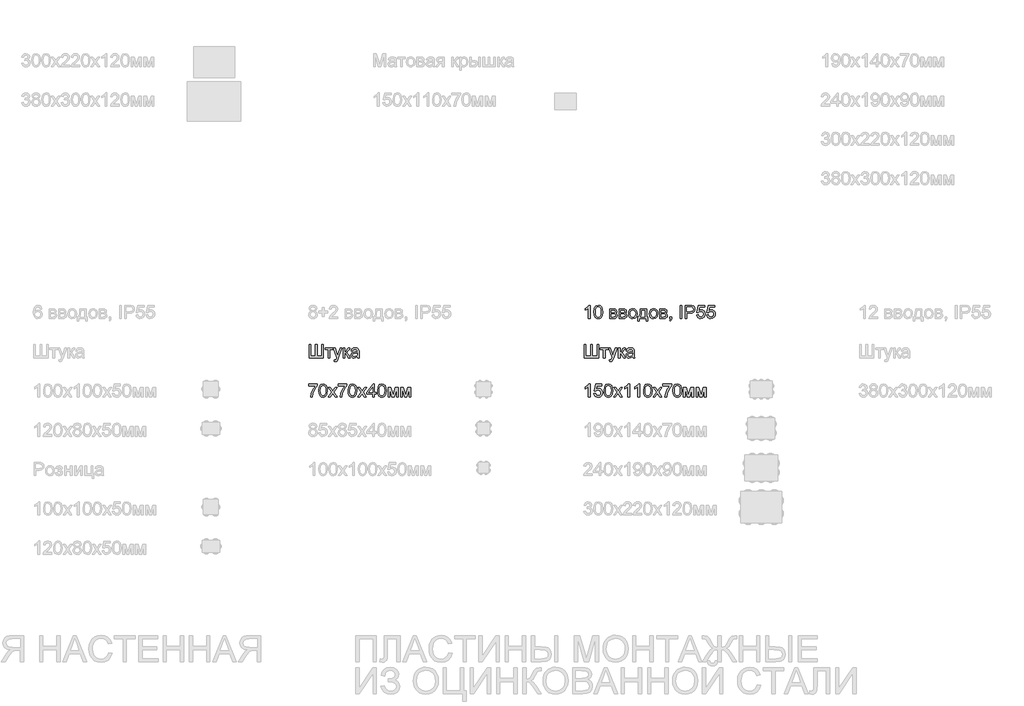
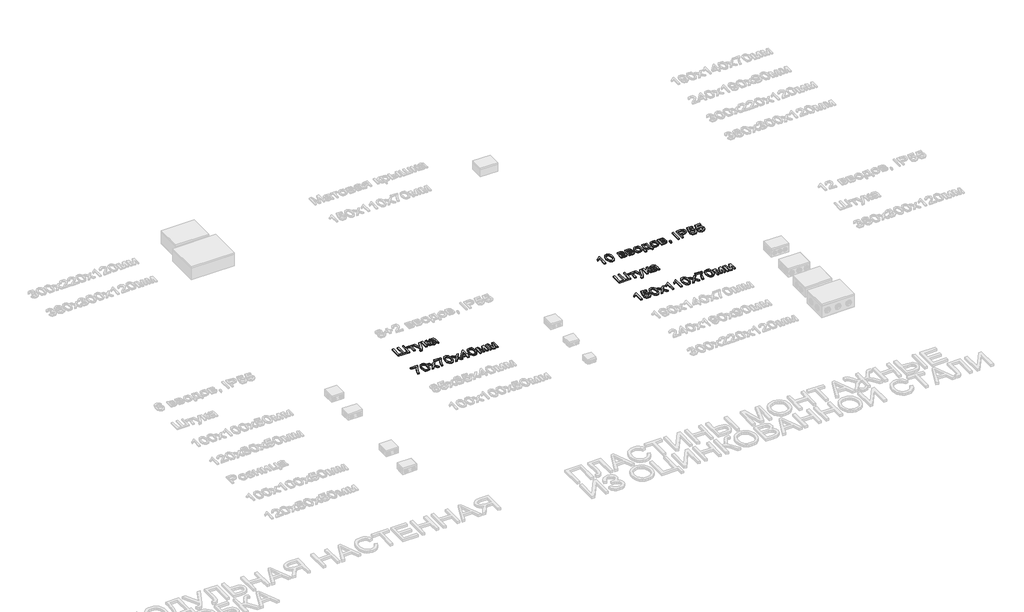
# One storey, part 26 of 98: 5 proxies.
"""IFC4 building model written with IfcOpenShell, lengths in millimetres."""

from ifc_helpers import new_model, si_unit, origin, origin_with_axes, place, context, project, spatial, polyline, outline, extrude, element, save

model = new_model("IFC4")

# Units and contexts
model_context = context("Model", 3, world=origin())
ifc_project = project(units=[si_unit("LENGTHUNIT", "METRE", prefix="MILLI")], contexts=[model_context])

# Site, building, storey
site = spatial("IfcSite", under=ifc_project)
building = spatial("IfcBuilding", under=site)
storey = spatial("IfcBuildingStorey", under=building, Name="Этаж 01", Elevation=0.0)

# Proxies
placement = place(None, origin())
element("IfcBuildingElementProxy", 1, Name="100", ObjectType="100", at=placement, inside=storey, context=model_context, shape_type="SweptSolid", body=[
    extrude(outline(polyline([(8053.5894784, -45359.0558563), (8066.1465172, -45359.0558563), (8066.1465172, -45446.9551277), (8102.2480036, -45446.9551277), (8102.2480036, -45359.0558563), (8114.8050424, -45359.0558563), (8114.8050424, -45446.9551277), (8150.9065289, -45446.9551277), (8150.9065289, -45359.0558563), (8163.4635676, -45359.0558563), (8163.4635676, -45459.5121665), (8053.5894784, -45459.5121665), (8053.5894784, -45359.0558563)])), origin_with_axes(), (0.0, 0.0, 1.0), 10.0),
    extrude(outline(polyline([(8176.0206064, -45385.7395637), (8235.6665405, -45385.7395637), (8235.6665405, -45398.2966025), (8212.1220929, -45398.2966025), (8212.1220929, -45459.5121665), (8199.5650541, -45459.5121665), (8199.5650541, -45398.2966025), (8176.0206064, -45398.2966025), (8176.0206064, -45385.7395637)])), origin_with_axes(), (0.0, 0.0, 1.0), 10.0),
    extrude(outline(polyline([(8246.6539495, -45487.7655037), (8245.0843196, -45475.6744488), (8251.4609409, -45476.7780948), (8257.4206292, -45475.3924059), (8261.0749237, -45471.529645), (8264.508489, -45462.2835442), (8265.4895076, -45459.2423863), (8238.8058002, -45385.7395637), (8252.0495521, -45385.7395637), (8266.2007461, -45426.6970925), (8271.1303649, -45443.080104), (8276.0599836, -45428.6100789), (8290.6035852, -45385.7395637), (8303.7492351, -45385.7395637), (8278.0710719, -45461.278), (8271.400145, -45477.6610116), (8264.1160815, -45486.5147049), (8254.3304204, -45489.3351335), (8246.6539495, -45487.7655037)])), origin_with_axes(), (0.0, 0.0, 1.0), 10.0),
    extrude(outline(polyline([(8314.1480329, -45385.7395637), (8326.7050716, -45385.7395637), (8326.7050716, -45417.1321606), (8335.1173066, -45414.8758177), (8342.0089626, -45401.7301677), (8347.735659, -45390.3871396), (8352.7879051, -45386.6960569), (8361.9726922, -45385.7395637), (8364.3761879, -45385.7395637), (8364.3761879, -45398.3701789), (8360.9916736, -45398.2966025), (8354.860307, -45399.6209776), (8350.5438249, -45407.8860598), (8345.4793161, -45416.8255923), (8338.3791936, -45421.203388), (8346.3009192, -45426.0900872), (8354.0754921, -45436.3846517), (8367.5154476, -45459.5121665), (8353.2416262, -45459.5121665), (8340.0714508, -45436.875161), (8333.4495749, -45427.2979664), (8326.7050716, -45424.9803098), (8326.7050716, -45459.5121665), (8314.1480329, -45459.5121665), (8314.1480329, -45385.7395637)])), origin_with_axes(), (0.0, 0.0, 1.0), 10.0),
    extrude(outline(polyline([(8422.4524922, -45450.0943874), (8410.2755982, -45458.6047242), (8396.8233799, -45461.0817963), (8386.329546, -45459.5918742), (8378.5886957, -45455.122108), (8373.8154268, -45448.3346852), (8372.2243372, -45439.8917934), (8374.6278329, -45429.9589795), (8380.9431404, -45422.7484924), (8389.7355201, -45418.6282141), (8400.6003017, -45416.7397532), (8422.3789158, -45412.4232711), (8422.4524922, -45409.6273679), (8418.9944015, -45400.3567416), (8405.1129875, -45396.7269726), (8392.408796, -45399.1427311), (8386.3510058, -45407.7143815), (8373.793967, -45406.1447517), (8379.2263578, -45393.8820185), (8390.1647158, -45386.6960569), (8406.7316683, -45384.1699338), (8421.9497202, -45386.4017513), (8430.5458961, -45392.0058203), (8434.3963943, -45400.5284199), (8435.009531, -45411.5158288), (8435.009531, -45427.1385509), (8435.6471931, -45448.9539532), (8438.1487907, -45459.5121665), (8425.5917519, -45459.5121665), (8422.4524922, -45450.0943874)]), holes=[polyline([(8422.4524922, -45424.9803098), (8402.194457, -45428.8308081), (8391.3909891, -45430.8664218), (8386.4981586, -45434.1773597), (8384.7813759, -45439.0088766), (8388.5215095, -45445.8024308), (8399.4966557, -45448.5247575), (8412.2008473, -45445.5203879), (8420.3923531, -45438.2485871), (8422.3789158, -45428.5365025), (8422.4524922, -45424.9803098)])]), origin_with_axes(), (0.0, 0.0, 1.0), 10.0),
])
element("IfcBuildingElementProxy", 2, Name="100", ObjectType="100", at=placement, inside=storey, context=model_context, shape_type="SweptSolid", body=[
    extrude(outline(polyline([(8050.4502187, -45673.1825249), (8050.4502187, -45660.6254862), (8116.3746722, -45660.6254862), (8116.3746722, -45670.7790292), (8097.6740042, -45697.7938304), (8083.3633945, -45732.2153224), (8078.7035559, -45759.5121665), (8066.1465172, -45759.5121665), (8071.1374496, -45731.1852528), (8084.8349225, -45699.1672565), (8103.8176335, -45673.1825249), (8050.4502187, -45673.1825249)])), origin_with_axes(), (0.0, 0.0, 1.0), 10.0),
    extrude(outline(polyline([(8127.3620812, -45710.0933518), (8131.0531639, -45681.1900897), (8142.0160473, -45664.5250353), (8160.3243079, -45659.0558563), (8174.9905368, -45662.2932179), (8185.1195544, -45671.6251578), (8191.0056663, -45686.4875904), (8193.2865347, -45710.0933518), (8189.6322402, -45738.8739865), (8178.706145, -45755.5758291), (8170.4747853, -45759.7053045), (8160.3243079, -45761.0817963), (8147.2767598, -45758.6905633), (8137.3684714, -45751.5168644), (8129.8636787, -45734.5268476), (8127.3620812, -45710.0933518)]), holes=[polyline([(8139.9191199, -45710.0688263), (8141.3906479, -45729.8210238), (8145.8052319, -45741.2529568), (8152.3780568, -45746.7068073), (8160.3243079, -45748.5247575), (8168.270559, -45746.700676), (8174.843384, -45741.2284313), (8179.257968, -45729.7903669), (8180.7294959, -45710.0688263), (8179.3070189, -45690.7611529), (8175.0395877, -45679.2403151), (8168.4790255, -45673.5197501), (8160.1771551, -45671.6128951), (8152.3167432, -45673.2928895), (8146.0014356, -45678.3328729), (8141.4396988, -45690.5710806), (8139.9191199, -45710.0688263)])]), origin_with_axes(), (0.0, 0.0, 1.0), 10.0),
    extrude(outline(polyline([(8199.5650541, -45759.5121665), (8226.3959143, -45722.4296613), (8201.1346839, -45685.7395637), (8216.2423712, -45685.7395637), (8228.431528, -45703.3978995), (8234.1214362, -45711.736558), (8239.0510549, -45704.9184784), (8252.9324689, -45685.7395637), (8268.0401561, -45685.7395637), (8241.5036015, -45722.4296613), (8267.0591375, -45759.5121665), (8251.9514502, -45759.5121665), (8236.5739828, -45737.2185176), (8233.7535542, -45733.1472901), (8214.6727414, -45759.5121665), (8199.5650541, -45759.5121665)])), origin_with_axes(), (0.0, 0.0, 1.0), 10.0),
    extrude(outline(polyline([(8274.9072867, -45673.1825249), (8274.9072867, -45660.6254862), (8340.8317402, -45660.6254862), (8340.8317402, -45670.7790292), (8322.1310721, -45697.7938304), (8307.8204625, -45732.2153224), (8303.1606239, -45759.5121665), (8290.6035852, -45759.5121665), (8295.5945176, -45731.1852528), (8309.2919905, -45699.1672565), (8328.2747015, -45673.1825249), (8274.9072867, -45673.1825249)])), origin_with_axes(), (0.0, 0.0, 1.0), 10.0),
    extrude(outline(polyline([(8351.8191492, -45710.0933518), (8355.5102318, -45681.1900897), (8366.4731153, -45664.5250353), (8384.7813759, -45659.0558563), (8399.4476048, -45662.2932179), (8409.5766224, -45671.6251578), (8415.4627343, -45686.4875904), (8417.7436027, -45710.0933518), (8414.0893082, -45738.8739865), (8403.163213, -45755.5758291), (8394.9318533, -45759.7053045), (8384.7813759, -45761.0817963), (8371.7338278, -45758.6905633), (8361.8255394, -45751.5168644), (8354.3207467, -45734.5268476), (8351.8191492, -45710.0933518)]), holes=[polyline([(8364.3761879, -45710.0688263), (8365.8477159, -45729.8210238), (8370.2622998, -45741.2529568), (8376.8351248, -45746.7068073), (8384.7813759, -45748.5247575), (8392.727627, -45746.700676), (8399.300452, -45741.2284313), (8403.7150359, -45729.7903669), (8405.1865639, -45710.0688263), (8403.7640869, -45690.7611529), (8399.4966557, -45679.2403151), (8392.9360935, -45673.5197501), (8384.6342231, -45671.6128951), (8376.7738112, -45673.2928895), (8370.4585036, -45678.3328729), (8365.8967668, -45690.5710806), (8364.3761879, -45710.0688263)])]), origin_with_axes(), (0.0, 0.0, 1.0), 10.0),
    extrude(outline(polyline([(8424.0221221, -45759.5121665), (8450.8529823, -45722.4296613), (8425.5917519, -45685.7395637), (8440.6994392, -45685.7395637), (8452.888596, -45703.3978995), (8458.5785042, -45711.736558), (8463.5081229, -45704.9184784), (8477.3895368, -45685.7395637), (8492.4972241, -45685.7395637), (8465.9606695, -45722.4296613), (8491.5162055, -45759.5121665), (8476.4085182, -45759.5121665), (8461.0310508, -45737.2185176), (8458.2106222, -45733.1472901), (8439.1298093, -45759.5121665), (8424.0221221, -45759.5121665)])), origin_with_axes(), (0.0, 0.0, 1.0), 10.0),
    extrude(outline(polyline([(8540.1747307, -45759.5121665), (8540.1747307, -45735.9677188), (8494.6554652, -45735.9677188), (8494.6554652, -45723.41068), (8543.3139904, -45660.6254862), (8552.7317695, -45660.6254862), (8552.7317695, -45723.41068), (8565.2888082, -45723.41068), (8565.2888082, -45735.9677188), (8552.7317695, -45735.9677188), (8552.7317695, -45759.5121665), (8540.1747307, -45759.5121665)]), holes=[polyline([(8540.1747307, -45723.41068), (8540.1747307, -45684.6113922), (8510.1065089, -45723.41068), (8540.1747307, -45723.41068)])]), origin_with_axes(), (0.0, 0.0, 1.0), 10.0),
    extrude(outline(polyline([(8576.2762171, -45710.0933518), (8579.9672998, -45681.1900897), (8590.9301833, -45664.5250353), (8609.2384439, -45659.0558563), (8623.9046728, -45662.2932179), (8634.0336904, -45671.6251578), (8639.9198023, -45686.4875904), (8642.2006707, -45710.0933518), (8638.5463762, -45738.8739865), (8627.6202809, -45755.5758291), (8619.3889213, -45759.7053045), (8609.2384439, -45761.0817963), (8596.1908958, -45758.6905633), (8586.2826074, -45751.5168644), (8578.7778147, -45734.5268476), (8576.2762171, -45710.0933518)]), holes=[polyline([(8588.8332559, -45710.0688263), (8590.3047839, -45729.8210238), (8594.7193678, -45741.2529568), (8601.2921928, -45746.7068073), (8609.2384439, -45748.5247575), (8617.184695, -45746.700676), (8623.75752, -45741.2284313), (8628.1721039, -45729.7903669), (8629.6436319, -45710.0688263), (8628.2211549, -45690.7611529), (8623.9537237, -45679.2403151), (8617.3931615, -45673.5197501), (8609.0912911, -45671.6128951), (8601.2308792, -45673.2928895), (8594.9155716, -45678.3328729), (8590.3538348, -45690.5710806), (8588.8332559, -45710.0688263)])]), origin_with_axes(), (0.0, 0.0, 1.0), 10.0),
    extrude(outline(polyline([(8656.3273393, -45685.7395637), (8677.9342751, -45685.7395637), (8694.5870668, -45744.7968867), (8712.5397082, -45685.7395637), (8733.2392018, -45685.7395637), (8733.2392018, -45759.5121665), (8720.682163, -45759.5121665), (8720.682163, -45700.111487), (8702.6314198, -45759.5121665), (8686.1503064, -45759.5121665), (8668.8843781, -45697.2665329), (8668.8843781, -45759.5121665), (8656.3273393, -45759.5121665), (8656.3273393, -45685.7395637)])), origin_with_axes(), (0.0, 0.0, 1.0), 10.0),
    extrude(outline(polyline([(8752.0747599, -45685.7395637), (8773.6816958, -45685.7395637), (8790.3344874, -45744.7968867), (8808.2871288, -45685.7395637), (8828.9866224, -45685.7395637), (8828.9866224, -45759.5121665), (8816.4295836, -45759.5121665), (8816.4295836, -45700.111487), (8798.3788404, -45759.5121665), (8781.897727, -45759.5121665), (8764.6317987, -45697.2665329), (8764.6317987, -45759.5121665), (8752.0747599, -45759.5121665), (8752.0747599, -45685.7395637)])), origin_with_axes(), (0.0, 0.0, 1.0), 10.0),
])
element("IfcBuildingElementProxy", 3, Name="100", ObjectType="100", at=placement, inside=storey, context=model_context, shape_type="SweptSolid", body=[
    extrude(outline(polyline([(10197.5391141, -45159.5121665), (10184.9820753, -45159.5121665), (10184.9820753, -45081.2268779), (10173.0872241, -45089.7004265), (10159.8679978, -45096.0402596), (10159.8679978, -45084.1699338), (10178.2743603, -45072.4222355), (10189.4457102, -45059.0558563), (10197.5391141, -45059.0558563), (10197.5391141, -45159.5121665)])), origin_with_axes(), (0.0, 0.0, 1.0), 10.0),
    extrude(outline(polyline([(10227.3620812, -45110.0933518), (10231.0531639, -45081.1900897), (10242.0160473, -45064.5250353), (10260.3243079, -45059.0558563), (10274.9905368, -45062.2932179), (10285.1195544, -45071.6251578), (10291.0056663, -45086.4875904), (10293.2865347, -45110.0933518), (10289.6322402, -45138.8739865), (10278.706145, -45155.5758291), (10270.4747853, -45159.7053045), (10260.3243079, -45161.0817963), (10247.2767598, -45158.6905633), (10237.3684714, -45151.5168644), (10229.8636787, -45134.5268476), (10227.3620812, -45110.0933518)]), holes=[polyline([(10239.9191199, -45110.0688263), (10241.3906479, -45129.8210238), (10245.8052319, -45141.2529568), (10252.3780568, -45146.7068073), (10260.3243079, -45148.5247575), (10268.270559, -45146.700676), (10274.843384, -45141.2284313), (10279.257968, -45129.7903669), (10280.7294959, -45110.0688263), (10279.3070189, -45090.7611529), (10275.0395877, -45079.2403151), (10268.4790255, -45073.5197501), (10260.1771551, -45071.6128951), (10252.3167432, -45073.2928895), (10246.0014356, -45078.3328729), (10241.4396988, -45090.5710806), (10239.9191199, -45110.0688263)])]), origin_with_axes(), (0.0, 0.0, 1.0), 10.0),
    extrude(outline(polyline([(10346.6539495, -45085.7395637), (10374.3186755, -45085.7395637), (10389.4876764, -45087.4195581), (10398.0225387, -45093.5754502), (10401.5909941, -45104.3053417), (10399.432753, -45113.024145), (10392.9335045, -45119.2413507), (10401.3702649, -45126.0471676), (10404.7302538, -45137.8807051), (10402.6026696, -45147.4517684), (10397.5442921, -45154.1901403), (10389.5367274, -45158.1816599), (10378.5615812, -45159.5121665), (10346.6539495, -45159.5121665), (10346.6539495, -45085.7395637)]), holes=[polyline([(10359.2109882, -45146.9551277), (10374.6129811, -45146.9551277), (10388.2736659, -45144.6865221), (10392.173215, -45136.8506356), (10390.0272367, -45130.8051081), (10384.4354304, -45127.2857037), (10373.3867078, -45126.5499397), (10359.2109882, -45126.5499397), (10359.2109882, -45146.9551277)]), polyline([(10359.2109882, -45113.9929009), (10371.6208742, -45113.9929009), (10381.8602564, -45113.3552388), (10386.8389261, -45110.8045903), (10389.0339553, -45106.1938026), (10385.1834571, -45100.0379106), (10372.0132817, -45098.2966025), (10359.2109882, -45098.2966025), (10359.2109882, -45113.9929009)])]), origin_with_axes(), (0.0, 0.0, 1.0), 10.0),
    extrude(outline(polyline([(10420.4265522, -45085.7395637), (10448.0912783, -45085.7395637), (10463.2602792, -45087.4195581), (10471.7951415, -45093.5754502), (10475.3635968, -45104.3053417), (10473.2053558, -45113.024145), (10466.7061072, -45119.2413507), (10475.1428677, -45126.0471676), (10478.5028565, -45137.8807051), (10476.3752723, -45147.4517684), (10471.3168949, -45154.1901403), (10463.3093301, -45158.1816599), (10452.334184, -45159.5121665), (10420.4265522, -45159.5121665), (10420.4265522, -45085.7395637)]), holes=[polyline([(10432.983591, -45146.9551277), (10448.3855839, -45146.9551277), (10462.0462686, -45144.6865221), (10465.9458178, -45136.8506356), (10463.7998395, -45130.8051081), (10458.2080331, -45127.2857037), (10447.1593106, -45126.5499397), (10432.983591, -45126.5499397), (10432.983591, -45146.9551277)]), polyline([(10432.983591, -45113.9929009), (10445.393477, -45113.9929009), (10455.6328592, -45113.3552388), (10460.6115288, -45110.8045903), (10462.8065581, -45106.1938026), (10458.9560599, -45100.0379106), (10445.7858844, -45098.2966025), (10432.983591, -45098.2966025), (10432.983591, -45113.9929009)])]), origin_with_axes(), (0.0, 0.0, 1.0), 10.0),
    extrude(outline(polyline([(10491.0598953, -45122.6258651), (10493.7760907, -45104.8387706), (10501.9246769, -45092.3369141), (10511.9923808, -45086.2116789), (10524.0466475, -45084.1699338), (10537.2382828, -45086.656203), (10547.7750362, -45094.1150104), (10554.6820207, -45105.957745), (10556.9843488, -45121.5957955), (10552.9131214, -45143.9384953), (10541.0550585, -45156.5813732), (10524.0466475, -45161.0817963), (10510.6955968, -45158.6047242), (10500.1711061, -45151.1735079), (10493.337698, -45139.082453), (10491.0598953, -45122.6258651)]), holes=[polyline([(10503.6169341, -45122.6013396), (10505.070068, -45133.9658276), (10509.4294696, -45142.0622972), (10515.9900318, -45146.9091424), (10524.0466475, -45148.5247575), (10532.066475, -45146.8999454), (10538.6147746, -45142.025509), (10542.9741762, -45133.8217405), (10544.4273101, -45122.2089321), (10542.9649791, -45111.175538), (10538.5779864, -45103.189433), (10532.0204898, -45098.3425877), (10524.0466475, -45096.7269726), (10515.9900318, -45098.3364563), (10509.4294696, -45103.1649075), (10505.070068, -45111.242983), (10503.6169341, -45122.6013396)])]), origin_with_axes(), (0.0, 0.0, 1.0), 10.0),
    extrude(outline(polyline([(10582.0984264, -45085.7395637), (10629.1873218, -45085.7395637), (10629.1873218, -45146.9551277), (10638.6051008, -45146.9551277), (10638.6051008, -45179.9173545), (10626.0480621, -45179.9173545), (10626.0480621, -45159.5121665), (10574.2502772, -45159.5121665), (10574.2502772, -45179.9173545), (10561.6932384, -45179.9173545), (10561.6932384, -45146.9551277), (10569.5413876, -45146.9551277), (10579.2412096, -45123.0060098), (10582.0984264, -45085.7395637)]), holes=[polyline([(10593.0858353, -45098.2966025), (10590.1427793, -45126.905559), (10583.6680562, -45146.9551277), (10616.630283, -45146.9551277), (10616.630283, -45098.2966025), (10593.0858353, -45098.2966025)])]), origin_with_axes(), (0.0, 0.0, 1.0), 10.0),
    extrude(outline(polyline([(10649.5925098, -45122.6258651), (10652.3087052, -45104.8387706), (10660.4572914, -45092.3369141), (10670.5249953, -45086.2116789), (10682.579262, -45084.1699338), (10695.7708972, -45086.656203), (10706.3076507, -45094.1150104), (10713.2146351, -45105.957745), (10715.5169633, -45121.5957955), (10711.4457359, -45143.9384953), (10699.5876729, -45156.5813732), (10682.579262, -45161.0817963), (10669.2282113, -45158.6047242), (10658.7037205, -45151.1735079), (10651.8703125, -45139.082453), (10649.5925098, -45122.6258651)]), holes=[polyline([(10662.1495485, -45122.6013396), (10663.6026824, -45133.9658276), (10667.9620841, -45142.0622972), (10674.5226463, -45146.9091424), (10682.579262, -45148.5247575), (10690.5990895, -45146.8999454), (10697.147389, -45142.025509), (10701.5067907, -45133.8217405), (10702.9599245, -45122.2089321), (10701.4975936, -45111.175538), (10697.1106008, -45103.189433), (10690.5531042, -45098.3425877), (10682.579262, -45096.7269726), (10674.5226463, -45098.3364563), (10667.9620841, -45103.1649075), (10663.6026824, -45111.242983), (10662.1495485, -45122.6013396)])]), origin_with_axes(), (0.0, 0.0, 1.0), 10.0),
    extrude(outline(polyline([(10729.6436319, -45085.7395637), (10757.308358, -45085.7395637), (10772.4773589, -45087.4195581), (10781.0122212, -45093.5754502), (10784.5806765, -45104.3053417), (10782.4224355, -45113.024145), (10775.9231869, -45119.2413507), (10784.3599473, -45126.0471676), (10787.7199362, -45137.8807051), (10785.592352, -45147.4517684), (10780.5339746, -45154.1901403), (10772.5264098, -45158.1816599), (10761.5512636, -45159.5121665), (10729.6436319, -45159.5121665), (10729.6436319, -45085.7395637)]), holes=[polyline([(10742.2006707, -45146.9551277), (10757.6026635, -45146.9551277), (10771.2633483, -45144.6865221), (10775.1628975, -45136.8506356), (10773.0169191, -45130.8051081), (10767.4251128, -45127.2857037), (10756.3763902, -45126.5499397), (10742.2006707, -45126.5499397), (10742.2006707, -45146.9551277)]), polyline([(10742.2006707, -45113.9929009), (10754.6105567, -45113.9929009), (10764.8499389, -45113.3552388), (10769.8286085, -45110.8045903), (10772.0236378, -45106.1938026), (10768.1731395, -45100.0379106), (10755.0029641, -45098.2966025), (10742.2006707, -45098.2966025), (10742.2006707, -45113.9929009)])]), origin_with_axes(), (0.0, 0.0, 1.0), 10.0),
    extrude(outline(polyline([(10806.5554944, -45159.5121665), (10806.5554944, -45146.9551277), (10819.1125331, -45146.9551277), (10819.1125331, -45159.5121665), (10816.8561902, -45172.3512481), (10809.6947541, -45179.9173545), (10806.5554944, -45175.2084649), (10811.166282, -45169.7883369), (10812.8094883, -45159.5121665), (10806.5554944, -45159.5121665)])), origin_with_axes(), (0.0, 0.0, 1.0), 10.0),
    extrude(outline(polyline([(10885.0369867, -45159.5121665), (10885.0369867, -45059.0558563), (10897.5940254, -45059.0558563), (10897.5940254, -45159.5121665), (10885.0369867, -45159.5121665)])), origin_with_axes(), (0.0, 0.0, 1.0), 10.0),
    extrude(outline(polyline([(10922.708103, -45159.5121665), (10922.708103, -45059.0558563), (10959.9377609, -45059.0558563), (10974.9473463, -45060.0123495), (10987.1487658, -45064.7089763), (10995.0582287, -45074.421061), (10998.0503356, -45088.1185339), (10996.0300503, -45099.9582028), (10989.9691944, -45109.8235716), (10978.6353633, -45116.4822358), (10960.7961522, -45118.7017905), (10935.2651418, -45118.7017905), (10935.2651418, -45159.5121665), (10922.708103, -45159.5121665)]), holes=[polyline([(10935.2651418, -45106.1447517), (10961.5319162, -45106.1447517), (10980.0241178, -45101.533964), (10984.1260021, -45095.9850773), (10985.4932968, -45088.5599923), (10982.268198, -45078.1611946), (10973.7946494, -45072.4712864), (10961.2376106, -45071.6128951), (10935.2651418, -45071.6128951), (10935.2651418, -45106.1447517)])]), origin_with_axes(), (0.0, 0.0, 1.0), 10.0),
    extrude(outline(polyline([(11010.6073744, -45132.8284591), (11023.1644131, -45131.2588292), (11029.4919835, -45144.1960127), (11042.6131079, -45148.5247575), (11051.6139541, -45147.019507), (11058.3584573, -45142.5037555), (11062.5707062, -45135.4986692), (11063.9747891, -45126.5254142), (11058.7140766, -45111.6139307), (11052.1075291, -45107.5120464), (11042.8093117, -45106.1447517), (11031.7851146, -45108.3275182), (11024.734043, -45113.9929009), (11012.1770042, -45112.4232711), (11023.1644131, -45060.6254862), (11071.8229384, -45060.6254862), (11071.8229384, -45073.1825249), (11033.3179562, -45073.1825249), (11027.9468791, -45100.847251), (11036.9170684, -45095.4025974), (11046.3164534, -45093.5877129), (11058.0488233, -45095.8379245), (11067.7884991, -45102.5885591), (11074.3459957, -45112.8769922), (11076.5318279, -45125.7405993), (11074.5636592, -45138.2976381), (11068.6591532, -45149.0397923), (11057.3529132, -45158.0712953), (11042.564057, -45161.0817963), (11030.2308131, -45159.1473501), (11020.4052982, -45153.3440117), (11013.669992, -45144.3462312), (11010.6073744, -45132.8284591)])), origin_with_axes(), (0.0, 0.0, 1.0), 10.0),
    extrude(outline(polyline([(11087.5192368, -45132.8284591), (11100.0762756, -45131.2588292), (11106.4038459, -45144.1960127), (11119.5249704, -45148.5247575), (11128.5258166, -45147.019507), (11135.2703198, -45142.5037555), (11139.4825686, -45135.4986692), (11140.8866516, -45126.5254142), (11135.6259391, -45111.6139307), (11129.0193916, -45107.5120464), (11119.7211741, -45106.1447517), (11108.696977, -45108.3275182), (11101.6459054, -45113.9929009), (11089.0888667, -45112.4232711), (11100.0762756, -45060.6254862), (11148.7348008, -45060.6254862), (11148.7348008, -45073.1825249), (11110.2298187, -45073.1825249), (11104.8587415, -45100.847251), (11113.8289308, -45095.4025974), (11123.2283158, -45093.5877129), (11134.9606858, -45095.8379245), (11144.7003616, -45102.5885591), (11151.2578582, -45112.8769922), (11153.4436904, -45125.7405993), (11151.4755217, -45138.2976381), (11145.5710157, -45149.0397923), (11134.2647757, -45158.0712953), (11119.4759195, -45161.0817963), (11107.1426756, -45159.1473501), (11097.3171606, -45153.3440117), (11090.5818544, -45144.3462312), (11087.5192368, -45132.8284591)])), origin_with_axes(), (0.0, 0.0, 1.0), 10.0),
])
element("IfcBuildingElementProxy", 4, Name="100", ObjectType="100", at=placement, inside=storey, context=model_context, shape_type="SweptSolid", body=[
    extrude(outline(polyline([(10153.5894784, -45359.0558563), (10166.1465172, -45359.0558563), (10166.1465172, -45446.9551277), (10202.2480036, -45446.9551277), (10202.2480036, -45359.0558563), (10214.8050424, -45359.0558563), (10214.8050424, -45446.9551277), (10250.9065289, -45446.9551277), (10250.9065289, -45359.0558563), (10263.4635676, -45359.0558563), (10263.4635676, -45459.5121665), (10153.5894784, -45459.5121665), (10153.5894784, -45359.0558563)])), origin_with_axes(), (0.0, 0.0, 1.0), 10.0),
    extrude(outline(polyline([(10276.0206064, -45385.7395637), (10335.6665405, -45385.7395637), (10335.6665405, -45398.2966025), (10312.1220929, -45398.2966025), (10312.1220929, -45459.5121665), (10299.5650541, -45459.5121665), (10299.5650541, -45398.2966025), (10276.0206064, -45398.2966025), (10276.0206064, -45385.7395637)])), origin_with_axes(), (0.0, 0.0, 1.0), 10.0),
    extrude(outline(polyline([(10346.6539495, -45487.7655037), (10345.0843196, -45475.6744488), (10351.4609409, -45476.7780948), (10357.4206292, -45475.3924059), (10361.0749237, -45471.529645), (10364.508489, -45462.2835442), (10365.4895076, -45459.2423863), (10338.8058002, -45385.7395637), (10352.0495521, -45385.7395637), (10366.2007461, -45426.6970925), (10371.1303649, -45443.080104), (10376.0599836, -45428.6100789), (10390.6035852, -45385.7395637), (10403.7492351, -45385.7395637), (10378.0710719, -45461.278), (10371.400145, -45477.6610116), (10364.1160815, -45486.5147049), (10354.3304204, -45489.3351335), (10346.6539495, -45487.7655037)])), origin_with_axes(), (0.0, 0.0, 1.0), 10.0),
    extrude(outline(polyline([(10414.1480329, -45385.7395637), (10426.7050716, -45385.7395637), (10426.7050716, -45417.1321606), (10435.1173066, -45414.8758177), (10442.0089626, -45401.7301677), (10447.735659, -45390.3871396), (10452.7879051, -45386.6960569), (10461.9726922, -45385.7395637), (10464.3761879, -45385.7395637), (10464.3761879, -45398.3701789), (10460.9916736, -45398.2966025), (10454.860307, -45399.6209776), (10450.5438249, -45407.8860598), (10445.4793161, -45416.8255923), (10438.3791936, -45421.203388), (10446.3009192, -45426.0900872), (10454.0754921, -45436.3846517), (10467.5154476, -45459.5121665), (10453.2416262, -45459.5121665), (10440.0714508, -45436.875161), (10433.4495749, -45427.2979664), (10426.7050716, -45424.9803098), (10426.7050716, -45459.5121665), (10414.1480329, -45459.5121665), (10414.1480329, -45385.7395637)])), origin_with_axes(), (0.0, 0.0, 1.0), 10.0),
    extrude(outline(polyline([(10522.4524922, -45450.0943874), (10510.2755982, -45458.6047242), (10496.8233799, -45461.0817963), (10486.329546, -45459.5918742), (10478.5886957, -45455.122108), (10473.8154268, -45448.3346852), (10472.2243372, -45439.8917934), (10474.6278329, -45429.9589795), (10480.9431404, -45422.7484924), (10489.7355201, -45418.6282141), (10500.6003017, -45416.7397532), (10522.3789158, -45412.4232711), (10522.4524922, -45409.6273679), (10518.9944015, -45400.3567416), (10505.1129875, -45396.7269726), (10492.408796, -45399.1427311), (10486.3510058, -45407.7143815), (10473.793967, -45406.1447517), (10479.2263578, -45393.8820185), (10490.1647158, -45386.6960569), (10506.7316683, -45384.1699338), (10521.9497202, -45386.4017513), (10530.5458961, -45392.0058203), (10534.3963943, -45400.5284199), (10535.009531, -45411.5158288), (10535.009531, -45427.1385509), (10535.6471931, -45448.9539532), (10538.1487907, -45459.5121665), (10525.5917519, -45459.5121665), (10522.4524922, -45450.0943874)]), holes=[polyline([(10522.4524922, -45424.9803098), (10502.194457, -45428.8308081), (10491.3909891, -45430.8664218), (10486.4981586, -45434.1773597), (10484.7813759, -45439.0088766), (10488.5215095, -45445.8024308), (10499.4966557, -45448.5247575), (10512.2008473, -45445.5203879), (10520.3923531, -45438.2485871), (10522.3789158, -45428.5365025), (10522.4524922, -45424.9803098)])]), origin_with_axes(), (0.0, 0.0, 1.0), 10.0),
])
element("IfcBuildingElementProxy", 5, Name="100", ObjectType="100", at=placement, inside=storey, context=model_context, shape_type="SweptSolid", body=[
    extrude(outline(polyline([(10197.5391141, -45759.5121665), (10184.9820753, -45759.5121665), (10184.9820753, -45681.2268779), (10173.0872241, -45689.7004265), (10159.8679978, -45696.0402596), (10159.8679978, -45684.1699338), (10178.2743603, -45672.4222355), (10189.4457102, -45659.0558563), (10197.5391141, -45659.0558563), (10197.5391141, -45759.5121665)])), origin_with_axes(), (0.0, 0.0, 1.0), 10.0),
    extrude(outline(polyline([(10227.3620812, -45732.8284591), (10239.9191199, -45731.2588292), (10246.2466903, -45744.1960127), (10259.3678147, -45748.5247575), (10268.3686609, -45747.019507), (10275.1131641, -45742.5037555), (10279.325413, -45735.4986692), (10280.7294959, -45726.5254142), (10275.4687834, -45711.6139307), (10268.8622359, -45707.5120464), (10259.5640185, -45706.1447517), (10248.5398214, -45708.3275182), (10241.4887498, -45713.9929009), (10228.931711, -45712.4232711), (10239.9191199, -45660.6254862), (10288.5776452, -45660.6254862), (10288.5776452, -45673.1825249), (10250.072663, -45673.1825249), (10244.7015859, -45700.847251), (10253.6717752, -45695.4025974), (10263.0711602, -45693.5877129), (10274.8035301, -45695.8379245), (10284.543206, -45702.5885591), (10291.1007025, -45712.8769922), (10293.2865347, -45725.7405993), (10291.318366, -45738.2976381), (10285.41386, -45749.0397923), (10274.10762, -45758.0712953), (10259.3187638, -45761.0817963), (10246.9855199, -45759.1473501), (10237.160005, -45753.3440117), (10230.4246988, -45744.3462312), (10227.3620812, -45732.8284591)])), origin_with_axes(), (0.0, 0.0, 1.0), 10.0),
    extrude(outline(polyline([(10304.2739436, -45710.0933518), (10307.9650263, -45681.1900897), (10318.9279098, -45664.5250353), (10337.2361704, -45659.0558563), (10351.9023993, -45662.2932179), (10362.0314169, -45671.6251578), (10367.9175288, -45686.4875904), (10370.1983972, -45710.0933518), (10366.5441027, -45738.8739865), (10355.6180074, -45755.5758291), (10347.3866478, -45759.7053045), (10337.2361704, -45761.0817963), (10324.1886223, -45758.6905633), (10314.2803339, -45751.5168644), (10306.7755412, -45734.5268476), (10304.2739436, -45710.0933518)]), holes=[polyline([(10316.8309824, -45710.0688263), (10318.3025104, -45729.8210238), (10322.7170943, -45741.2529568), (10329.2899193, -45746.7068073), (10337.2361704, -45748.5247575), (10345.1824215, -45746.700676), (10351.7552465, -45741.2284313), (10356.1698304, -45729.7903669), (10357.6413584, -45710.0688263), (10356.2188813, -45690.7611529), (10351.9514502, -45679.2403151), (10345.390888, -45673.5197501), (10337.0890176, -45671.6128951), (10329.2286056, -45673.2928895), (10322.913298, -45678.3328729), (10318.3515613, -45690.5710806), (10316.8309824, -45710.0688263)])]), origin_with_axes(), (0.0, 0.0, 1.0), 10.0),
    extrude(outline(polyline([(10376.4769165, -45759.5121665), (10403.3077767, -45722.4296613), (10378.0465464, -45685.7395637), (10393.1542337, -45685.7395637), (10405.3433904, -45703.3978995), (10411.0332986, -45711.736558), (10415.9629174, -45704.9184784), (10429.8443313, -45685.7395637), (10444.9520186, -45685.7395637), (10418.415464, -45722.4296613), (10443.9709999, -45759.5121665), (10428.8633127, -45759.5121665), (10413.4858453, -45737.2185176), (10410.6654166, -45733.1472901), (10391.5846038, -45759.5121665), (10376.4769165, -45759.5121665)])), origin_with_axes(), (0.0, 0.0, 1.0), 10.0),
    extrude(outline(polyline([(10498.9080445, -45759.5121665), (10486.3510058, -45759.5121665), (10486.3510058, -45681.2268779), (10474.4561546, -45689.7004265), (10461.2369282, -45696.0402596), (10461.2369282, -45684.1699338), (10479.6432907, -45672.4222355), (10490.8146406, -45659.0558563), (10498.9080445, -45659.0558563), (10498.9080445, -45759.5121665)])), origin_with_axes(), (0.0, 0.0, 1.0), 10.0),
    extrude(outline(polyline([(10575.819907, -45759.5121665), (10563.2628682, -45759.5121665), (10563.2628682, -45681.2268779), (10551.3680171, -45689.7004265), (10538.1487907, -45696.0402596), (10538.1487907, -45684.1699338), (10556.5551532, -45672.4222355), (10567.7265031, -45659.0558563), (10575.819907, -45659.0558563), (10575.819907, -45759.5121665)])), origin_with_axes(), (0.0, 0.0, 1.0), 10.0),
    extrude(outline(polyline([(10605.6428741, -45710.0933518), (10609.3339568, -45681.1900897), (10620.2968402, -45664.5250353), (10638.6051008, -45659.0558563), (10653.2713297, -45662.2932179), (10663.4003473, -45671.6251578), (10669.2864592, -45686.4875904), (10671.5673276, -45710.0933518), (10667.9130331, -45738.8739865), (10656.9869379, -45755.5758291), (10648.7555782, -45759.7053045), (10638.6051008, -45761.0817963), (10625.5575527, -45758.6905633), (10615.6492643, -45751.5168644), (10608.1444716, -45734.5268476), (10605.6428741, -45710.0933518)]), holes=[polyline([(10618.1999128, -45710.0688263), (10619.6714408, -45729.8210238), (10624.0860248, -45741.2529568), (10630.6588497, -45746.7068073), (10638.6051008, -45748.5247575), (10646.5513519, -45746.700676), (10653.1241769, -45741.2284313), (10657.5387609, -45729.7903669), (10659.0102888, -45710.0688263), (10657.5878118, -45690.7611529), (10653.3203806, -45679.2403151), (10646.7598184, -45673.5197501), (10638.457948, -45671.6128951), (10630.5975361, -45673.2928895), (10624.2822285, -45678.3328729), (10619.7204918, -45690.5710806), (10618.1999128, -45710.0688263)])]), origin_with_axes(), (0.0, 0.0, 1.0), 10.0),
    extrude(outline(polyline([(10677.845847, -45759.5121665), (10704.6767072, -45722.4296613), (10679.4154768, -45685.7395637), (10694.5231641, -45685.7395637), (10706.7123209, -45703.3978995), (10712.4022291, -45711.736558), (10717.3318478, -45704.9184784), (10731.2132618, -45685.7395637), (10746.320949, -45685.7395637), (10719.7843944, -45722.4296613), (10745.3399304, -45759.5121665), (10730.2322431, -45759.5121665), (10714.8547757, -45737.2185176), (10712.0343471, -45733.1472901), (10692.9535343, -45759.5121665), (10677.845847, -45759.5121665)])), origin_with_axes(), (0.0, 0.0, 1.0), 10.0),
    extrude(outline(polyline([(10753.1880796, -45673.1825249), (10753.1880796, -45660.6254862), (10819.1125331, -45660.6254862), (10819.1125331, -45670.7790292), (10800.4118651, -45697.7938304), (10786.1012554, -45732.2153224), (10781.4414168, -45759.5121665), (10768.8843781, -45759.5121665), (10773.8753105, -45731.1852528), (10787.5727834, -45699.1672565), (10806.5554944, -45673.1825249), (10753.1880796, -45673.1825249)])), origin_with_axes(), (0.0, 0.0, 1.0), 10.0),
    extrude(outline(polyline([(10830.0999421, -45710.0933518), (10833.7910247, -45681.1900897), (10844.7539082, -45664.5250353), (10863.0621688, -45659.0558563), (10877.7283977, -45662.2932179), (10887.8574153, -45671.6251578), (10893.7435272, -45686.4875904), (10896.0243956, -45710.0933518), (10892.3701011, -45738.8739865), (10881.4440059, -45755.5758291), (10873.2126462, -45759.7053045), (10863.0621688, -45761.0817963), (10850.0146207, -45758.6905633), (10840.1063323, -45751.5168644), (10832.6015396, -45734.5268476), (10830.0999421, -45710.0933518)]), holes=[polyline([(10842.6569808, -45710.0688263), (10844.1285088, -45729.8210238), (10848.5430928, -45741.2529568), (10855.1159177, -45746.7068073), (10863.0621688, -45748.5247575), (10871.0084199, -45746.700676), (10877.5812449, -45741.2284313), (10881.9958289, -45729.7903669), (10883.4673568, -45710.0688263), (10882.0448798, -45690.7611529), (10877.7774486, -45679.2403151), (10871.2168864, -45673.5197501), (10862.915016, -45671.6128951), (10855.0546041, -45673.2928895), (10848.7392965, -45678.3328729), (10844.1775597, -45690.5710806), (10842.6569808, -45710.0688263)])]), origin_with_axes(), (0.0, 0.0, 1.0), 10.0),
    extrude(outline(polyline([(10910.1510642, -45685.7395637), (10931.7580001, -45685.7395637), (10948.4107917, -45744.7968867), (10966.3634331, -45685.7395637), (10987.0629267, -45685.7395637), (10987.0629267, -45759.5121665), (10974.5058879, -45759.5121665), (10974.5058879, -45700.111487), (10956.4551447, -45759.5121665), (10939.9740313, -45759.5121665), (10922.708103, -45697.2665329), (10922.708103, -45759.5121665), (10910.1510642, -45759.5121665), (10910.1510642, -45685.7395637)])), origin_with_axes(), (0.0, 0.0, 1.0), 10.0),
    extrude(outline(polyline([(11005.8984848, -45685.7395637), (11027.5054207, -45685.7395637), (11044.1582123, -45744.7968867), (11062.1108537, -45685.7395637), (11082.8103473, -45685.7395637), (11082.8103473, -45759.5121665), (11070.2533085, -45759.5121665), (11070.2533085, -45700.111487), (11052.2025653, -45759.5121665), (11035.7214519, -45759.5121665), (11018.4555236, -45697.2665329), (11018.4555236, -45759.5121665), (11005.8984848, -45759.5121665), (11005.8984848, -45685.7395637)])), origin_with_axes(), (0.0, 0.0, 1.0), 10.0),
])

save(model, "model.ifc")
